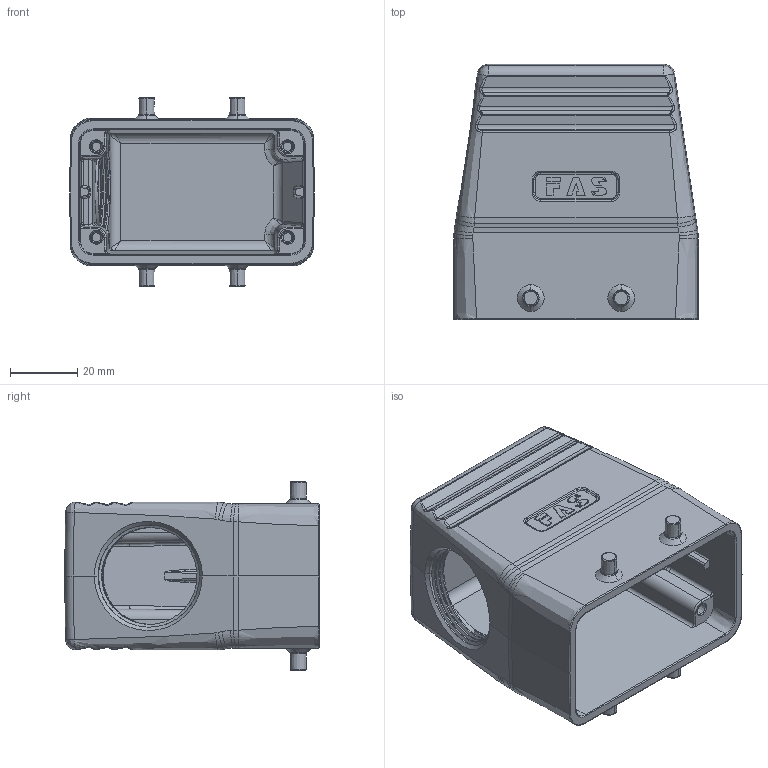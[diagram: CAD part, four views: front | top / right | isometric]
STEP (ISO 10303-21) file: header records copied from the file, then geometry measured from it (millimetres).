
FILE_DESCRIPTION (( 'STEP AP203' ), '1' );
FILE_NAME ('H10B-TGH-M25&M32&40.STEP', '2020-11-21T03:00:33', ( '' ), ( '' ), 'SwSTEP 2.0', 'SolidWorks 2016', '' );
FILE_SCHEMA (( 'CONFIG_CONTROL_DESIGN' ));
Length unit declared in the file: millimetre
Products named in the file (4): h10b_low_hoods; H10B-TGH-M25&M32&40; h10b-sbk-h_23010-4; h10b-tsh-m32
Assembly tree (3 placements, depth 3):
  H10B-TGH-M25&M32&40
    h10b-sbk-h_23010-4
    h10b-tsh-m32
      h10b_low_hoods
Bounding box: 73 x 76 x 56.4 mm (x, y, z)
Volume: 72791.4 mm3; surface area: 34833.4 mm2
Topology: 5 solids, 5 shells, 561 faces, 1379 edges, 845 vertices
Faces by surface type: bspline 188, plane 175, cylinder 158, cone 40
Entity records: 29385 total; most frequent: CARTESIAN_POINT 17362, ORIENTED_EDGE 2746, DIRECTION 2006, EDGE_CURVE 1373, VERTEX_POINT 845, AXIS2_PLACEMENT_3D 715, EDGE_LOOP 586, VECTOR 576
